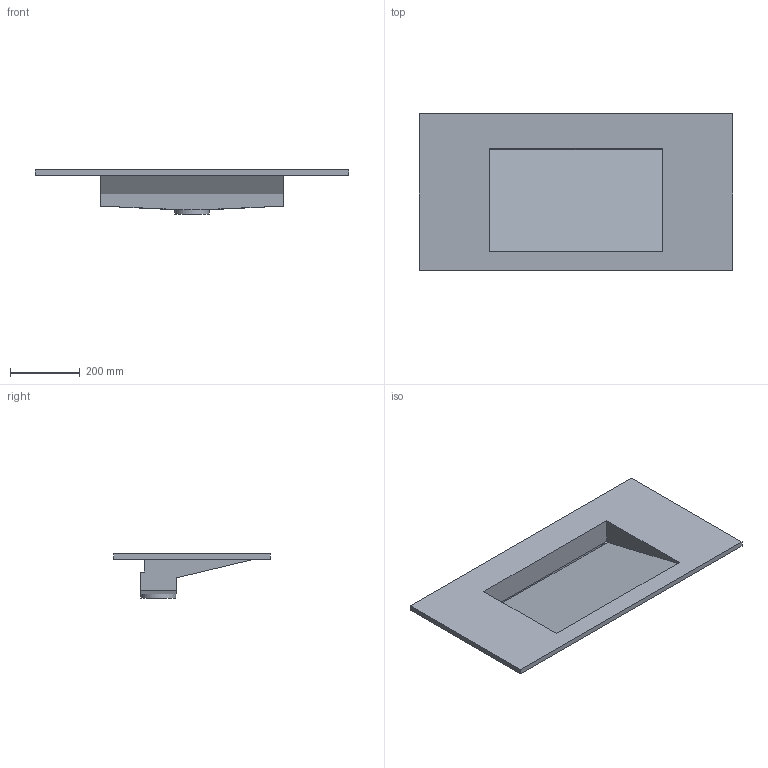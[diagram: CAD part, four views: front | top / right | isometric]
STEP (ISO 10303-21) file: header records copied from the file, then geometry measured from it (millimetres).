
FILE_DESCRIPTION(/* description */ (''),/* implementation_level */ '2;1');
FILE_NAME(/* name */ 'Cabinet Basin 900.stp',/* time_stamp */ '2025-10-25T10:47:45+08:00',/* author */ (''),/* organization */ (''),/* preprocessor_version */ 'ST-DEVELOPER v20',/* originating_system */ 'SIEMENS PLM Software NX2412.4001',/* authorisation */ '');
FILE_SCHEMA (('AUTOMOTIVE_DESIGN { 1 0 10303 214 3 1 1 1 }'));
Length unit declared in the file: millimetre
Products named in the file (1): Cabinet Basin 900
Bounding box: 900 x 450 x 127 mm (x, y, z)
Volume: 7052207.4 mm3; surface area: 1157361.1 mm2
Topology: 1 solids, 1 shells, 48 faces, 126 edges, 81 vertices
Faces by surface type: plane 43, cone 3, cylinder 2
Full cylindrical faces by diameter (mm): 45 x1, 100 x1
Entity records: 1476 total; most frequent: CARTESIAN_POINT 311, ORIENTED_EDGE 238, DIRECTION 214, EDGE_CURVE 119, LINE 106, VECTOR 106, VERTEX_POINT 79, EDGE_LOOP 56
